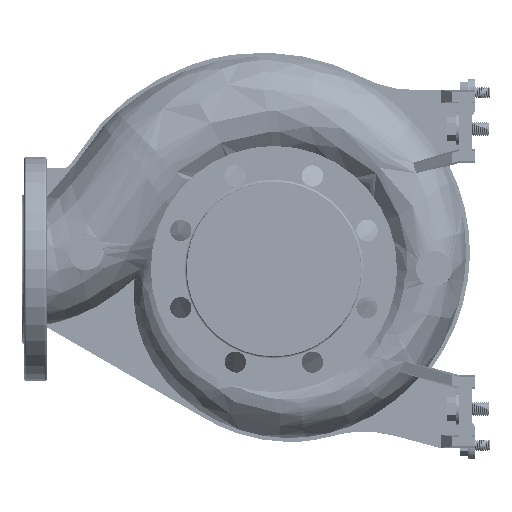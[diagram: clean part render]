
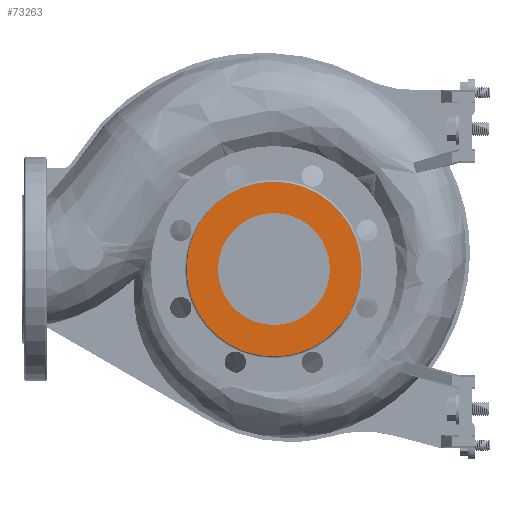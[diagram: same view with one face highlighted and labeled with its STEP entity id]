
A CAD part, left-side view. The second image highlights one B-rep face of the part: STEP entity #73263.
In plain terms, the highlighted planar face has unit normal (-1, 0, 0).
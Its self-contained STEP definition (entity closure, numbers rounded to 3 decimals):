
#2220 = DIRECTION ( 'NONE',  ( 0., 1., 0. ) ) ;
#2765 = ORIENTED_EDGE ( 'NONE', *, *, #16158, .F. ) ;
#6837 = CIRCLE ( 'NONE', #160117, 50. ) ;
#10198 = AXIS2_PLACEMENT_3D ( 'NONE', #134918, #22921, #84815 ) ;
#11686 = CARTESIAN_POINT ( 'NONE',  ( -125., 0., 0. ) ) ;
#12971 = VERTEX_POINT ( 'NONE', #154976 ) ;
#15459 = EDGE_CURVE ( 'NONE', #185684, #31959, #108990, .T. ) ;
#16158 = EDGE_CURVE ( 'NONE', #188813, #12971, #6837, .T. ) ;
#22921 = DIRECTION ( 'NONE',  ( -1., 0., 0. ) ) ;
#29361 = DIRECTION ( 'NONE',  ( -1., 0., 0. ) ) ;
#31897 = CIRCLE ( 'NONE', #35227, 50. ) ;
#31959 = VERTEX_POINT ( 'NONE', #194926 ) ;
#35227 = AXIS2_PLACEMENT_3D ( 'NONE', #76299, #29361, #175390 ) ;
#36034 = EDGE_LOOP ( 'NONE', ( #2765, #209140 ) ) ;
#50147 = CARTESIAN_POINT ( 'NONE',  ( -125., 0., 0. ) ) ;
#51520 = AXIS2_PLACEMENT_3D ( 'NONE', #50147, #196186, #180178 ) ;
#58372 = CIRCLE ( 'NONE', #51520, 78. ) ;
#60645 = EDGE_LOOP ( 'NONE', ( #130476, #175079 ) ) ;
#73263 = ADVANCED_FACE ( 'NONE', ( #148251, #181305 ), #164257, .F. ) ;
#76299 = CARTESIAN_POINT ( 'NONE',  ( -125., 0., 0. ) ) ;
#84815 = DIRECTION ( 'NONE',  ( 0., -1., 0. ) ) ;
#103008 = CARTESIAN_POINT ( 'NONE',  ( -125., 78., 0. ) ) ;
#108990 = CIRCLE ( 'NONE', #10198, 78. ) ;
#109786 = DIRECTION ( 'NONE',  ( -1., 0., 0. ) ) ;
#114883 = EDGE_CURVE ( 'NONE', #12971, #188813, #31897, .T. ) ;
#117323 = CARTESIAN_POINT ( 'NONE',  ( -125., 0., 0. ) ) ;
#127377 = EDGE_CURVE ( 'NONE', #31959, #185684, #58372, .T. ) ;
#130476 = ORIENTED_EDGE ( 'NONE', *, *, #127377, .T. ) ;
#134918 = CARTESIAN_POINT ( 'NONE',  ( -125., 0., 0. ) ) ;
#141760 = DIRECTION ( 'NONE',  ( 0., -1., 0. ) ) ;
#148251 = FACE_BOUND ( 'NONE', #36034, .T. ) ;
#154976 = CARTESIAN_POINT ( 'NONE',  ( -125., 50., 0. ) ) ;
#160117 = AXIS2_PLACEMENT_3D ( 'NONE', #11686, #109786, #141760 ) ;
#164257 = PLANE ( 'NONE',  #190623 ) ;
#175079 = ORIENTED_EDGE ( 'NONE', *, *, #15459, .T. ) ;
#175390 = DIRECTION ( 'NONE',  ( 0., -1., 0. ) ) ;
#180178 = DIRECTION ( 'NONE',  ( 0., -1., 0. ) ) ;
#181305 = FACE_OUTER_BOUND ( 'NONE', #60645, .T. ) ;
#185684 = VERTEX_POINT ( 'NONE', #103008 ) ;
#188813 = VERTEX_POINT ( 'NONE', #190863 ) ;
#190623 = AXIS2_PLACEMENT_3D ( 'NONE', #117323, #195204, #2220 ) ;
#190863 = CARTESIAN_POINT ( 'NONE',  ( -125., -50., 0. ) ) ;
#194926 = CARTESIAN_POINT ( 'NONE',  ( -125., -78., 0. ) ) ;
#195204 = DIRECTION ( 'NONE',  ( 1., 0., 0. ) ) ;
#196186 = DIRECTION ( 'NONE',  ( -1., 0., 0. ) ) ;
#209140 = ORIENTED_EDGE ( 'NONE', *, *, #114883, .F. ) ;
